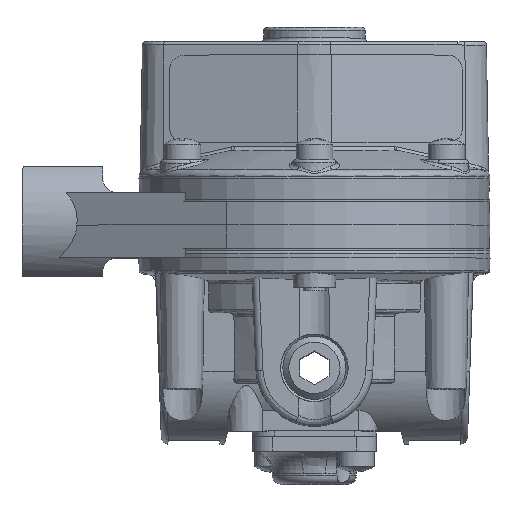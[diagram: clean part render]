
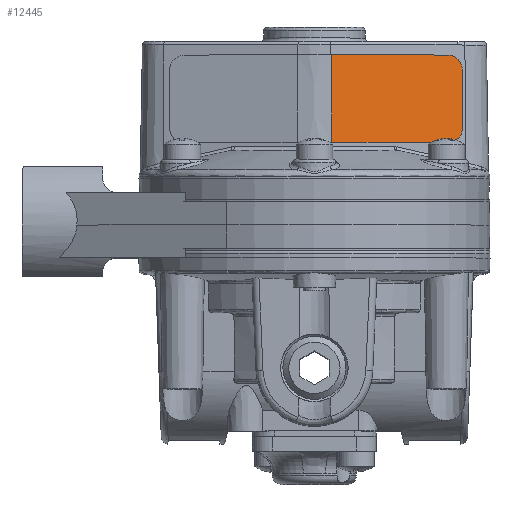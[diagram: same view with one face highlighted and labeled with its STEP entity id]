
A CAD part, top view. The second image highlights one B-rep face of the part: STEP entity #12445.
In plain terms, the highlighted planar face has unit normal (0.253, 0.018, 0.967).
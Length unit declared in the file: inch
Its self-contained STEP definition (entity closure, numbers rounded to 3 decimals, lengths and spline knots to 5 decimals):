
#321=PLANE('',#13306);
#738=ELLIPSE('',#13302,0.1292,0.125);
#739=ELLIPSE('',#13305,0.1292,0.125);
#827=LINE('',#22839,#1752);
#833=LINE('',#22888,#1758);
#837=LINE('',#22930,#1762);
#838=LINE('',#22931,#1763);
#1752=VECTOR('',#14753,39.37008);
#1758=VECTOR('',#14769,39.37008);
#1762=VECTOR('',#14779,39.37008);
#1763=VECTOR('',#14780,39.37008);
#2834=FACE_OUTER_BOUND('',#3519,.T.);
#3519=EDGE_LOOP('',(#9236,#9237,#9238,#9239,#9240,#9241));
#5408=VERTEX_POINT('',#22837);
#5409=VERTEX_POINT('',#22838);
#5414=VERTEX_POINT('',#22851);
#5416=VERTEX_POINT('',#22887);
#5418=VERTEX_POINT('',#22893);
#5420=VERTEX_POINT('',#22929);
#6899=EDGE_CURVE('',#5408,#5409,#827,.T.);
#6906=EDGE_CURVE('',#5409,#5414,#738,.T.);
#6909=EDGE_CURVE('',#5414,#5416,#833,.T.);
#6912=EDGE_CURVE('',#5416,#5418,#739,.T.);
#6915=EDGE_CURVE('',#5418,#5420,#837,.T.);
#6916=EDGE_CURVE('',#5420,#5408,#838,.T.);
#9236=ORIENTED_EDGE('',*,*,#6915,.F.);
#9237=ORIENTED_EDGE('',*,*,#6912,.F.);
#9238=ORIENTED_EDGE('',*,*,#6909,.F.);
#9239=ORIENTED_EDGE('',*,*,#6906,.F.);
#9240=ORIENTED_EDGE('',*,*,#6899,.F.);
#9241=ORIENTED_EDGE('',*,*,#6916,.F.);
#12445=ADVANCED_FACE('',(#2834),#321,.T.);
#13302=AXIS2_PLACEMENT_3D('',#22852,#14764,#14765);
#13305=AXIS2_PLACEMENT_3D('',#22894,#14774,#14775);
#13306=AXIS2_PLACEMENT_3D('',#22928,#14777,#14778);
#14753=DIRECTION('',(0.967,-0.004,-0.253));
#14764=DIRECTION('center_axis',(-0.253,-0.017,
-0.967));
#14765=DIRECTION('ref_axis',(0.967,0.,-0.253));
#14769=DIRECTION('',(0.,-1.,0.018));
#14774=DIRECTION('center_axis',(-0.253,-0.017,
-0.967));
#14775=DIRECTION('ref_axis',(0.967,0.,-0.253));
#14777=DIRECTION('center_axis',(0.253,0.017,0.967));
#14778=DIRECTION('ref_axis',(0.967,0.,-0.253));
#14779=DIRECTION('',(-0.967,0.004,0.253));
#14780=DIRECTION('',(-0.004,1.,-0.017));
#22837=CARTESIAN_POINT('',(0.14474,1.66972,0.55334));
#22838=CARTESIAN_POINT('',(1.1391,1.66563,0.29332));
#22839=CARTESIAN_POINT('',(1.29086,1.66501,0.25363));
#22851=CARTESIAN_POINT('',(1.26414,1.54014,0.26288));
#22852=CARTESIAN_POINT('Origin',(1.13914,1.54065,0.29556));
#22887=CARTESIAN_POINT('',(1.26429,1.04022,0.27186));
#22888=CARTESIAN_POINT('',(1.26406,1.78238,0.25853));
#22893=CARTESIAN_POINT('',(1.13933,0.91575,0.30679));
#22894=CARTESIAN_POINT('Origin',(1.13929,1.04073,0.30454));
#22928=CARTESIAN_POINT('Origin',(1.2908,1.78226,0.25153));
#22929=CARTESIAN_POINT('',(0.14805,0.91983,0.56601));
#22930=CARTESIAN_POINT('',(1.29129,0.91513,0.26705));
#22931=CARTESIAN_POINT('',(0.14835,0.85226,0.56715));
